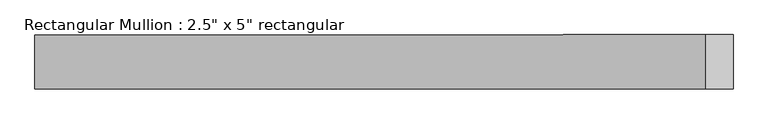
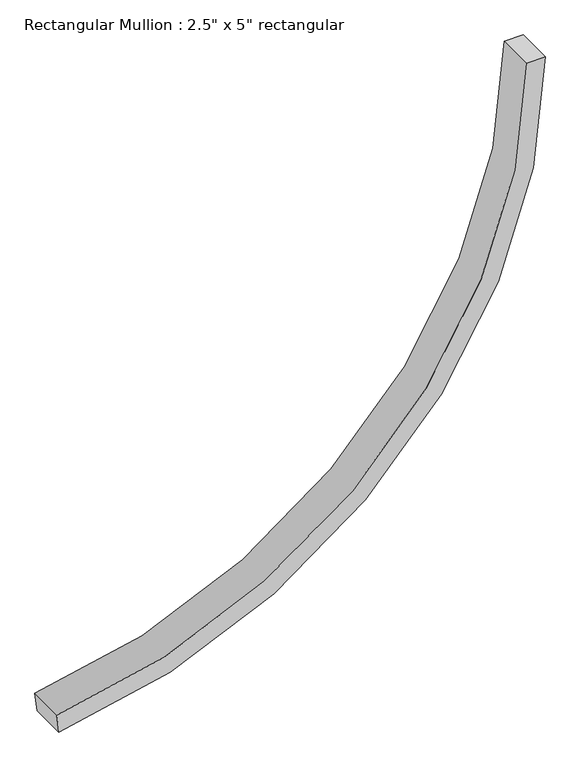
"""IFC4 building model written with IfcOpenShell, lengths in millimetres: member geometry."""

from ifc_helpers import new_model, si_unit, point, frame, frame_2d, origin, place, context, project, spatial, polyline, circle_curve, trimmed, segment, composite_curve, outline, extrude, source, transform, mapped, element, save


def member_27758863(model_context):
    return source(origin(), model_context, "Body", "SweptSolid", [
        extrude(outline(composite_curve([segment(trimmed(circle_curve(frame_2d((0.0, -1828.8)), 1828.8), [point((-1817.4760521, -1625.6))], [point((0.0, 0.0))], False, "CARTESIAN"), True, "CONTINUOUS"), segment(polyline([(0.0, 0.0), (0.0, -63.5)]), True, "CONTINUOUS"), segment(trimmed(circle_curve(frame_2d((0.0, -1828.8)), 1765.3), [point((0.0, -63.5))], [point((-1754.3692447, -1632.6555556))], True, "CARTESIAN"), True, "CONTINUOUS"), segment(polyline([(-1754.3692447, -1632.6555556), (-1817.4760521, -1625.6)]), True, "CONTINUOUS")], self_intersect=False)), frame((0.0, -63.5, 0.0), z_axis=(0.0, 1.0, 0.0), x_axis=(0.0, 0.0, 1.0)), (0.0, 0.0, 1.0), 127.0),
    ])


if __name__ == "__main__":
    model = new_model("IFC4")
    model_context = context("Model", 3, world=origin())
    ifc_project = project(units=[si_unit("LENGTHUNIT", "METRE", prefix="MILLI")], contexts=[model_context])
    site = spatial("IfcSite", under=ifc_project)
    building = spatial("IfcBuilding", under=site)
    placement = place(None, origin())
    member_shape = member_27758863(model_context)
    element("IfcMember", 1, ObjectType="Rectangular Mullion : 2.5\" x 5\" rectangular", at=placement, inside=building, context=model_context, shape_type="MappedRepresentation", body=[
        mapped(member_shape, transform((0.0, 0.0, 0.0), x_axis=(1.0, 0.0, 0.0), y_axis=(0.0, 1.0, 0.0), z_axis=(0.0, 0.0, 1.0))),
    ])
    save(model, "model.ifc")
